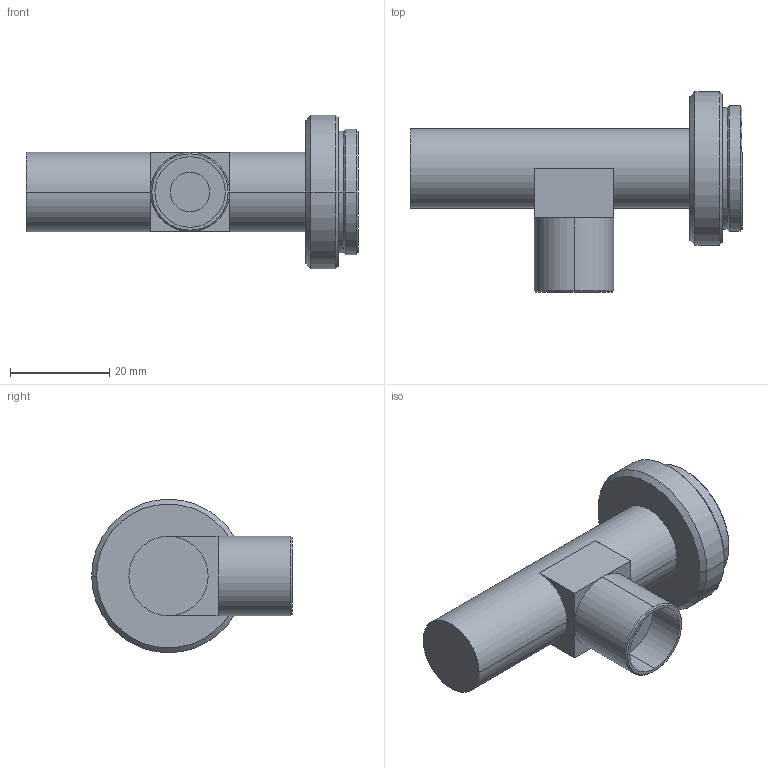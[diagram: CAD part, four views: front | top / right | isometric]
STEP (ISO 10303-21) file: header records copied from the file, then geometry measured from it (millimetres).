
FILE_DESCRIPTION (( 'STEP AP203' ), '1' );
FILE_NAME ('VS-TC1.5-70CO.STEP', '2017-01-19T15:08:24', ( '' ), ( '' ), 'SwSTEP 2.0', 'SolidWorks 2017', '' );
FILE_SCHEMA (( 'CONFIG_CONTROL_DESIGN' ));
Length unit declared in the file: millimetre
Products named in the file (1): VS-TC1.5-70CO
Bounding box: 67 x 40.5 x 31 mm (x, y, z)
Volume: 20589.6 mm3; surface area: 6798.1 mm2
Topology: 1 solids, 1 shells, 39 faces, 81 edges, 48 vertices
Faces by surface type: plane 15, cylinder 14, cone 10
Entity records: 1110 total; most frequent: DIRECTION 203, CARTESIAN_POINT 169, ORIENTED_EDGE 162, AXIS2_PLACEMENT_3D 82, EDGE_CURVE 81, VERTEX_POINT 48, EDGE_LOOP 43, CIRCLE 42
